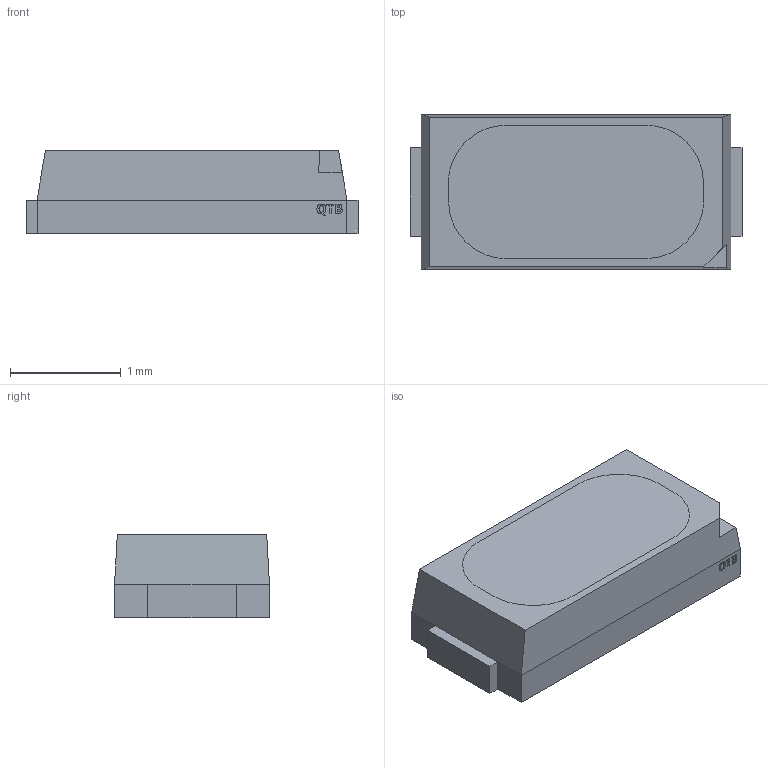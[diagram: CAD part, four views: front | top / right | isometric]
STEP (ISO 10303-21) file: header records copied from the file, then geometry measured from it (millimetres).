
FILE_DESCRIPTION(/* description */ (''),/* implementation_level */ '2;1');
FILE_NAME(/* name */ '5fab11851000980e77fab152',/* time_stamp */ '2020-11-10T22:17:42+00:00',/* author */ (''),/* organization */ (''),/* preprocessor_version */ 'ST-DEVELOPER v16.7',/* originating_system */ $,/* authorisation */ $);
FILE_SCHEMA (('AUTOMOTIVE_DESIGN {1 0 10303 214 3 1 1}'));
Length unit declared in the file: metre
Products named in the file (5): QBLP674; Part 2; Part 3; Part 1; Part 4
Assembly tree (4 placements, depth 2):
  QBLP674
    Part 2
    Part 3
    Part 1
    Part 4
Bounding box: 3 x 1.4 x 0.75 mm (x, y, z)
Volume: 2.9 mm3; surface area: 27.3 mm2
Topology: 4 solids, 4 shells, 126 faces, 327 edges, 212 vertices
Faces by surface type: plane 89, bspline 37
Entity records: 4160 total; most frequent: CARTESIAN_POINT 1237, ORIENTED_EDGE 654, DIRECTION 425, EDGE_CURVE 327, LINE 237, VECTOR 237, VERTEX_POINT 212, EDGE_LOOP 133
